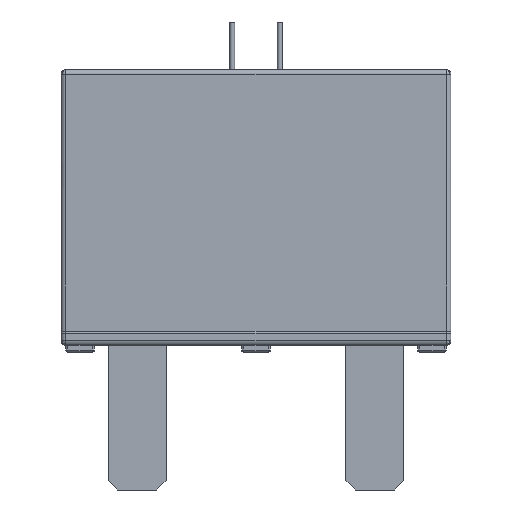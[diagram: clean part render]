
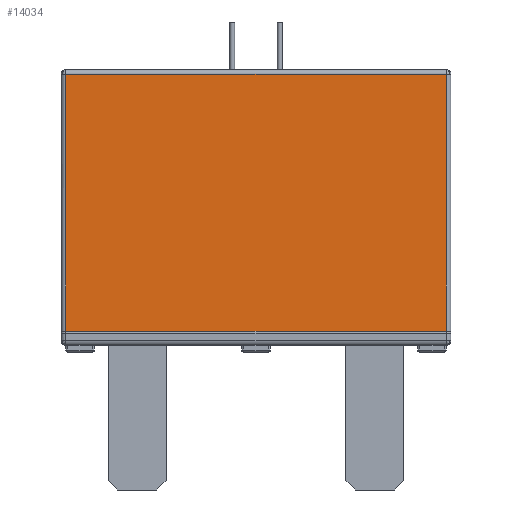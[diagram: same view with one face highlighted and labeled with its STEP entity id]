
A CAD part, front view. The second image highlights one B-rep face of the part: STEP entity #14034.
In plain terms, the highlighted planar face has unit normal (0, -1, 0).
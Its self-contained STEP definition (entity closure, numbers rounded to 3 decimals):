
#452 = ORIENTED_EDGE ( 'NONE', *, *, #6338, .T. ) ;
#619 = ORIENTED_EDGE ( 'NONE', *, *, #9896, .T. ) ;
#741 = VERTEX_POINT ( 'NONE', #11261 ) ;
#979 = VECTOR ( 'NONE', #11250, 1000. ) ;
#1107 = VERTEX_POINT ( 'NONE', #2417 ) ;
#2352 = LINE ( 'NONE', #12946, #9734 ) ;
#2417 = CARTESIAN_POINT ( 'NONE',  ( 20., -7., 1.5 ) ) ;
#2500 = VECTOR ( 'NONE', #7441, 1000. ) ;
#2715 = CARTESIAN_POINT ( 'NONE',  ( 20., -7., 1.5 ) ) ;
#2865 = LINE ( 'NONE', #14271, #2500 ) ;
#4138 = EDGE_CURVE ( 'NONE', #1107, #6258, #5745, .T. ) ;
#5034 = DIRECTION ( 'NONE',  ( 0., 0., 1. ) ) ;
#5383 = VECTOR ( 'NONE', #5034, 1000. ) ;
#5745 = LINE ( 'NONE', #2715, #5383 ) ;
#6258 = VERTEX_POINT ( 'NONE', #13880 ) ;
#6338 = EDGE_CURVE ( 'NONE', #6258, #11641, #2352, .T. ) ;
#7312 = EDGE_LOOP ( 'NONE', ( #9684, #452, #619, #12639 ) ) ;
#7441 = DIRECTION ( 'NONE',  ( 0., 0., -1. ) ) ;
#8677 = EDGE_CURVE ( 'NONE', #741, #1107, #13532, .T. ) ;
#9301 = DIRECTION ( 'NONE',  ( 0., 0., -1. ) ) ;
#9684 = ORIENTED_EDGE ( 'NONE', *, *, #4138, .T. ) ;
#9734 = VECTOR ( 'NONE', #11924, 1000. ) ;
#9896 = EDGE_CURVE ( 'NONE', #11641, #741, #2865, .T. ) ;
#10404 = CARTESIAN_POINT ( 'NONE',  ( -20., -7., 1.5 ) ) ;
#11203 = CARTESIAN_POINT ( 'NONE',  ( -20., -7., 1.5 ) ) ;
#11250 = DIRECTION ( 'NONE',  ( 1., 0., 0. ) ) ;
#11261 = CARTESIAN_POINT ( 'NONE',  ( -20., -7., 1.5 ) ) ;
#11291 = AXIS2_PLACEMENT_3D ( 'NONE', #10404, #13869, #9301 ) ;
#11348 = FACE_OUTER_BOUND ( 'NONE', #7312, .T. ) ;
#11641 = VERTEX_POINT ( 'NONE', #14410 ) ;
#11924 = DIRECTION ( 'NONE',  ( -1., 0., 0. ) ) ;
#12639 = ORIENTED_EDGE ( 'NONE', *, *, #8677, .T. ) ;
#12946 = CARTESIAN_POINT ( 'NONE',  ( -20., -7., 28.5 ) ) ;
#13532 = LINE ( 'NONE', #11203, #979 ) ;
#13776 = PLANE ( 'NONE',  #11291 ) ;
#13869 = DIRECTION ( 'NONE',  ( 0., -1., 0. ) ) ;
#13880 = CARTESIAN_POINT ( 'NONE',  ( 20., -7., 28.5 ) ) ;
#14034 = ADVANCED_FACE ( 'NONE', ( #11348 ), #13776, .T. ) ;
#14271 = CARTESIAN_POINT ( 'NONE',  ( -20., -7., 1.5 ) ) ;
#14410 = CARTESIAN_POINT ( 'NONE',  ( -20., -7., 28.5 ) ) ;
